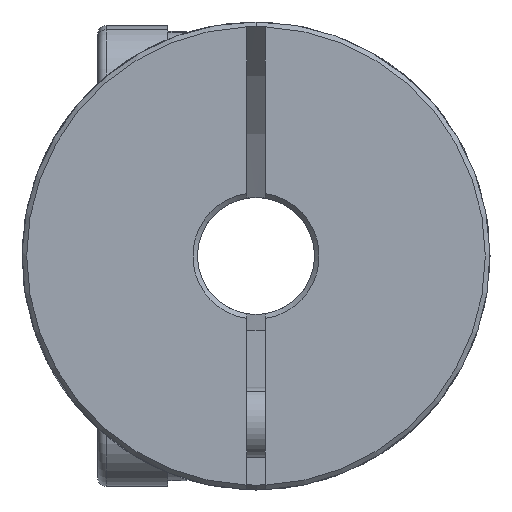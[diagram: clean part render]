
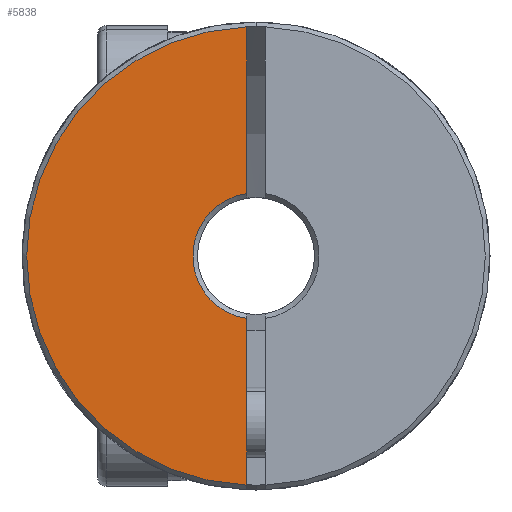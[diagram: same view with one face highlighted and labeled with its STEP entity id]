
A CAD part, front view. The second image highlights one B-rep face of the part: STEP entity #5838.
In plain terms, the highlighted planar face has unit normal (0, -1, 0).
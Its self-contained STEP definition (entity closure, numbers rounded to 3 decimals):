
#132 = VERTEX_POINT ( 'NONE', #1285 ) ;
#168 = CARTESIAN_POINT ( 'NONE',  ( -0.4, -17.5, 0. ) ) ;
#247 = ORIENTED_EDGE ( 'NONE', *, *, #4621, .F. ) ;
#266 = DIRECTION ( 'NONE',  ( 0., 0., 1. ) ) ;
#538 = CARTESIAN_POINT ( 'NONE',  ( -0.4, -17.5, -9.792 ) ) ;
#824 = DIRECTION ( 'NONE',  ( 0., -1., 0. ) ) ;
#961 = CARTESIAN_POINT ( 'NONE',  ( -0.4, -17.5, 9.792 ) ) ;
#1285 = CARTESIAN_POINT ( 'NONE',  ( -0.4, -17.5, 2.67 ) ) ;
#1286 = CARTESIAN_POINT ( 'NONE',  ( 0., -17.5, 0. ) ) ;
#1488 = CARTESIAN_POINT ( 'NONE',  ( -0.4, -17.5, -2.67 ) ) ;
#1601 = ORIENTED_EDGE ( 'NONE', *, *, #3133, .F. ) ;
#1646 = FACE_OUTER_BOUND ( 'NONE', #4866, .T. ) ;
#1817 = DIRECTION ( 'NONE',  ( 0., 0., -1. ) ) ;
#1874 = DIRECTION ( 'NONE',  ( 0., 0., 1. ) ) ;
#2416 = VERTEX_POINT ( 'NONE', #961 ) ;
#2498 = AXIS2_PLACEMENT_3D ( 'NONE', #6753, #3390, #5028 ) ;
#2688 = AXIS2_PLACEMENT_3D ( 'NONE', #1286, #5323, #1874 ) ;
#3030 = AXIS2_PLACEMENT_3D ( 'NONE', #6039, #824, #266 ) ;
#3133 = EDGE_CURVE ( 'NONE', #2416, #132, #4028, .T. ) ;
#3390 = DIRECTION ( 'NONE',  ( 0., 1., 0. ) ) ;
#4028 = LINE ( 'NONE', #6397, #5018 ) ;
#4338 = ORIENTED_EDGE ( 'NONE', *, *, #5489, .T. ) ;
#4451 = CIRCLE ( 'NONE', #3030, 9.8 ) ;
#4546 = ORIENTED_EDGE ( 'NONE', *, *, #5023, .T. ) ;
#4621 = EDGE_CURVE ( 'NONE', #5691, #5921, #5533, .T. ) ;
#4813 = DIRECTION ( 'NONE',  ( 0., 0., -1. ) ) ;
#4866 = EDGE_LOOP ( 'NONE', ( #1601, #4338, #247, #4546 ) ) ;
#5018 = VECTOR ( 'NONE', #1817, 1000. ) ;
#5023 = EDGE_CURVE ( 'NONE', #5691, #132, #5265, .T. ) ;
#5028 = DIRECTION ( 'NONE',  ( 0., 0., 1. ) ) ;
#5265 = CIRCLE ( 'NONE', #2688, 2.7 ) ;
#5323 = DIRECTION ( 'NONE',  ( 0., 1., 0. ) ) ;
#5489 = EDGE_CURVE ( 'NONE', #2416, #5921, #4451, .T. ) ;
#5533 = LINE ( 'NONE', #168, #5896 ) ;
#5691 = VERTEX_POINT ( 'NONE', #1488 ) ;
#5838 = ADVANCED_FACE ( 'NONE', ( #1646 ), #6824, .F. ) ;
#5896 = VECTOR ( 'NONE', #4813, 1000. ) ;
#5921 = VERTEX_POINT ( 'NONE', #538 ) ;
#6039 = CARTESIAN_POINT ( 'NONE',  ( 0., -17.5, 0. ) ) ;
#6397 = CARTESIAN_POINT ( 'NONE',  ( -0.4, -17.5, 0. ) ) ;
#6753 = CARTESIAN_POINT ( 'NONE',  ( 0., -17.5, 0. ) ) ;
#6824 = PLANE ( 'NONE',  #2498 ) ;
